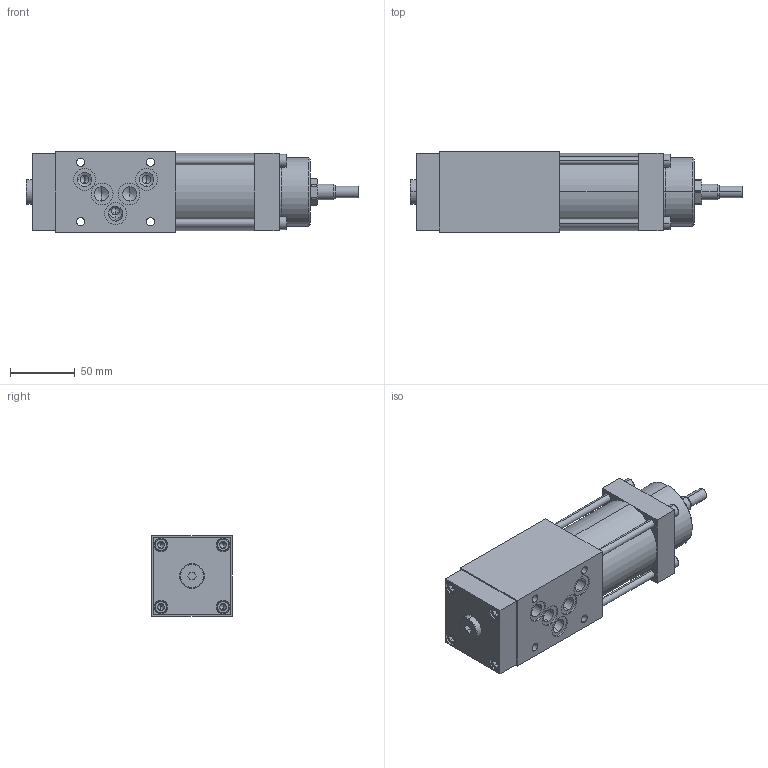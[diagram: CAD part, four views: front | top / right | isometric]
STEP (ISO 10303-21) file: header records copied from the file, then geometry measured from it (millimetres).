
FILE_DESCRIPTION (( 'STEP AP214' ), '1' );
FILE_NAME ('ADRVdN10.STEP', '2017-03-22T13:40:16', ( '' ), ( '' ), 'SwSTEP 2.0', 'SolidWorks 2016', '' );
FILE_SCHEMA (( 'AUTOMOTIVE_DESIGN' ));
Length unit declared in the file: millimetre
Products named in the file (1): ADRVdN10
Bounding box: 256.8 x 62 x 62 mm (x, y, z)
Volume: 709316.9 mm3; surface area: 88694 mm2
Topology: 7 solids, 8 shells, 555 faces, 1270 edges, 765 vertices
Faces by surface type: plane 249, cylinder 159, cone 84, torus 38, bspline 25
Entity records: 23473 total; most frequent: CARTESIAN_POINT 4866, DIRECTION 2658, ORIENTED_EDGE 2472, EDGE_CURVE 1236, AXIS2_PLACEMENT_3D 997, VERTEX_POINT 765, LINE 664, VECTOR 664
